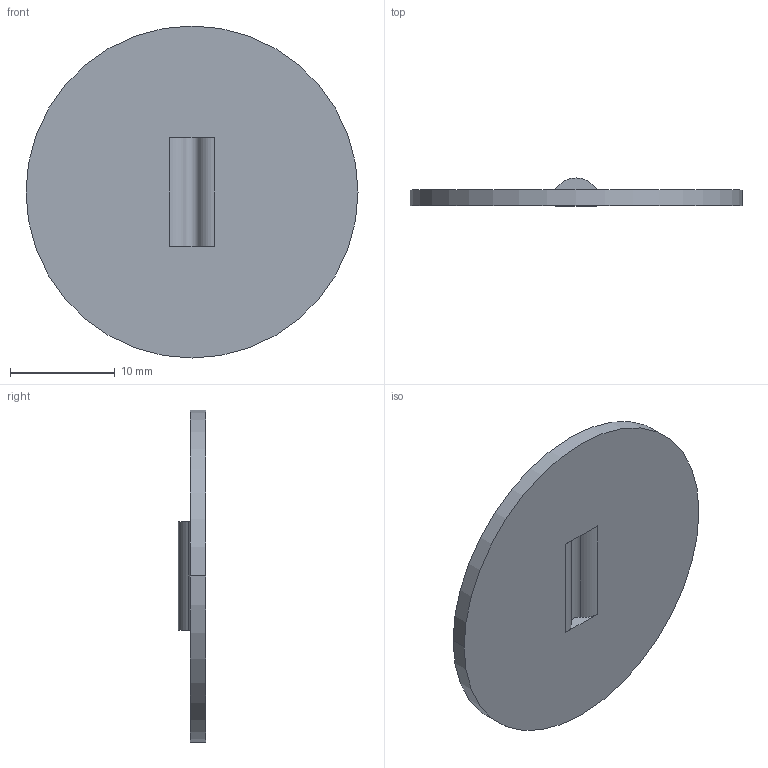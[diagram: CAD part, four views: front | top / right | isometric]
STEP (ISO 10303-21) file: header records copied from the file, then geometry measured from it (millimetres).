
FILE_DESCRIPTION (( 'STEP AP203' ), '1' );
FILE_NAME ('1357621-10.STEP', '2024-11-14T17:35:40', ( '' ), ( '' ), 'SwSTEP 2.0', 'SolidWorks 2024', '' );
FILE_SCHEMA (( 'CONFIG_CONTROL_DESIGN' ));
Length unit declared in the file: inch
Products named in the file (1): 1357621-10
Bounding box: 31.75 x 2.64 x 31.75 mm (x, y, z)
Volume: 1198.5 mm3; surface area: 1759.6 mm2
Topology: 1 solids, 1 shells, 14 faces, 30 edges, 20 vertices
Faces by surface type: cylinder 8, plane 6
Entity records: 469 total; most frequent: DIRECTION 76, CARTESIAN_POINT 65, ORIENTED_EDGE 60, AXIS2_PLACEMENT_3D 31, EDGE_CURVE 30, VERTEX_POINT 20, CIRCLE 16, EDGE_LOOP 16
